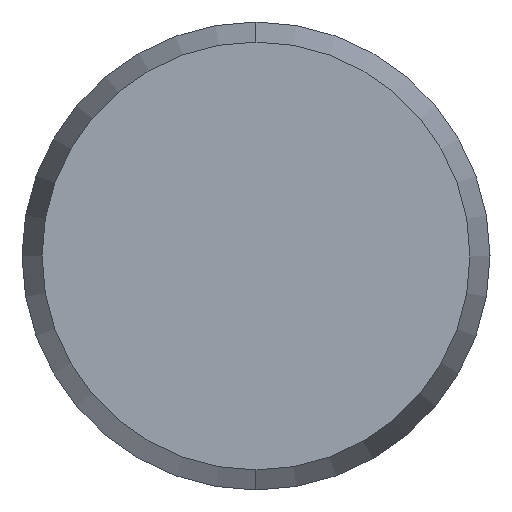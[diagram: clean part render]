
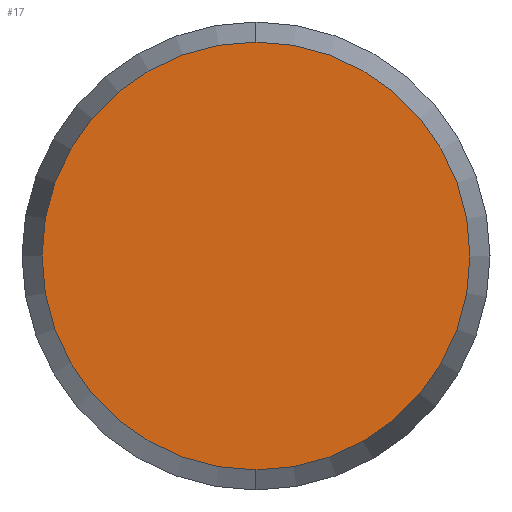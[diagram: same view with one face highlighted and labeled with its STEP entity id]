
A CAD part, left-side view. The second image highlights one B-rep face of the part: STEP entity #17.
In plain terms, the highlighted planar face has unit normal (-1, 0, 0).
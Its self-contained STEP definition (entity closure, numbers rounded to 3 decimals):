
#2 = EDGE_CURVE ( 'NONE', #4, #5, #74, .T. ) ;
#3 = ORIENTED_EDGE ( 'NONE', *, *, #7, .F. ) ;
#4 = VERTEX_POINT ( 'NONE', #83 ) ;
#5 = VERTEX_POINT ( 'NONE', #78 ) ;
#7 = EDGE_CURVE ( 'NONE', #5, #4, #84, .T. ) ;
#14 = ORIENTED_EDGE ( 'NONE', *, *, #2, .F. ) ;
#17 = ADVANCED_FACE ( 'NONE', ( #270 ), #271, .F. ) ;
#18 = EDGE_LOOP ( 'NONE', ( #3, #14 ) ) ;
#73 = AXIS2_PLACEMENT_3D ( 'NONE', #76, #75, #77 ) ;
#74 = CIRCLE ( 'NONE', #73, 2.286 ) ;
#75 = DIRECTION ( 'NONE',  ( 1., 0., 0. ) ) ;
#76 = CARTESIAN_POINT ( 'NONE',  ( -22.5, 0., 0. ) ) ;
#77 = DIRECTION ( 'NONE',  ( 0., 0., -1. ) ) ;
#78 = CARTESIAN_POINT ( 'NONE',  ( -22.5, 0., 2.286 ) ) ;
#80 = DIRECTION ( 'NONE',  ( 0., 0., -1. ) ) ;
#81 = AXIS2_PLACEMENT_3D ( 'NONE', #82, #86, #80 ) ;
#82 = CARTESIAN_POINT ( 'NONE',  ( -22.5, 0., 0. ) ) ;
#83 = CARTESIAN_POINT ( 'NONE',  ( -22.5, 0., -2.286 ) ) ;
#84 = CIRCLE ( 'NONE', #81, 2.286 ) ;
#86 = DIRECTION ( 'NONE',  ( 1., 0., 0. ) ) ;
#266 = AXIS2_PLACEMENT_3D ( 'NONE', #269, #268, #275 ) ;
#268 = DIRECTION ( 'NONE',  ( 1., 0., 0. ) ) ;
#269 = CARTESIAN_POINT ( 'NONE',  ( -22.5, 0., 0. ) ) ;
#270 = FACE_OUTER_BOUND ( 'NONE', #18, .T. ) ;
#271 = PLANE ( 'NONE',  #266 ) ;
#275 = DIRECTION ( 'NONE',  ( 0., 0., -1. ) ) ;
